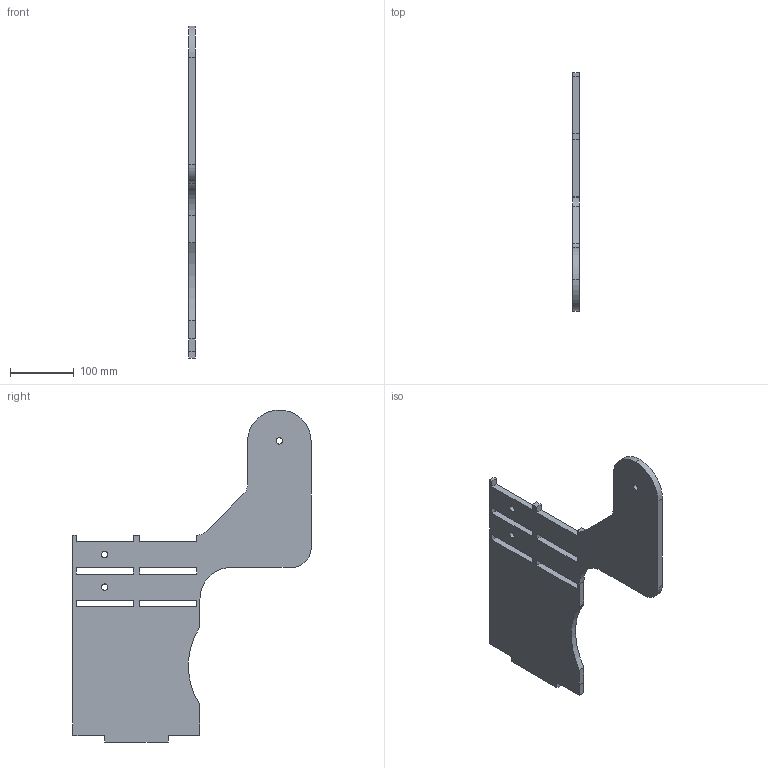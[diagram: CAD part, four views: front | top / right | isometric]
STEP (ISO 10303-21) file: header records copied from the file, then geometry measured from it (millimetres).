
FILE_DESCRIPTION(('CATIA V5 STEP Exchange'),'2;1');
FILE_NAME('C:\Users\gener\Documents\Lijadora Javitxu corte laser\Lateral bastidor suplementado altura.stp','2022-08-29T05:32:44+00:00',('none'),('none'),'CATIA Version 5 Release 20 GA (IN-10)','CATIA V5 STEP AP203','none');
FILE_SCHEMA(('CONFIG_CONTROL_DESIGN'));
Length unit declared in the file: millimetre
Products named in the file (1): Lateral bastidor modificado
Bounding box: 10 x 375 x 522.61 mm (x, y, z)
Volume: 871318.6 mm3; surface area: 200475.3 mm2
Topology: 1 solids, 1 shells, 54 faces, 156 edges, 106 vertices
Faces by surface type: plane 41, cylinder 13
Entity records: 1700 total; most frequent: ORIENTED_EDGE 312, CARTESIAN_POINT 294, DIRECTION 218, EDGE_CURVE 156, VECTOR 130, LINE 130, VERTEX_POINT 104, EDGE_LOOP 68
